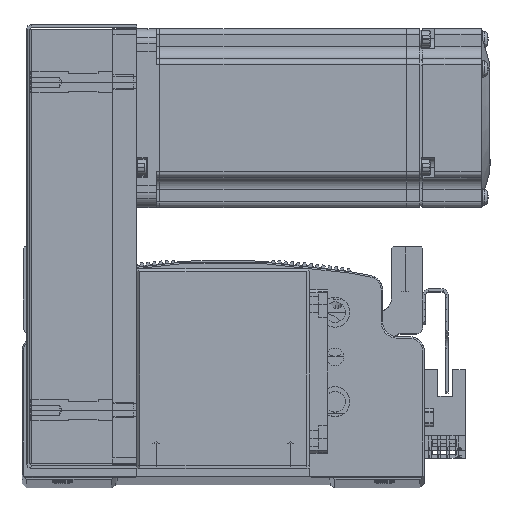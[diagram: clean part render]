
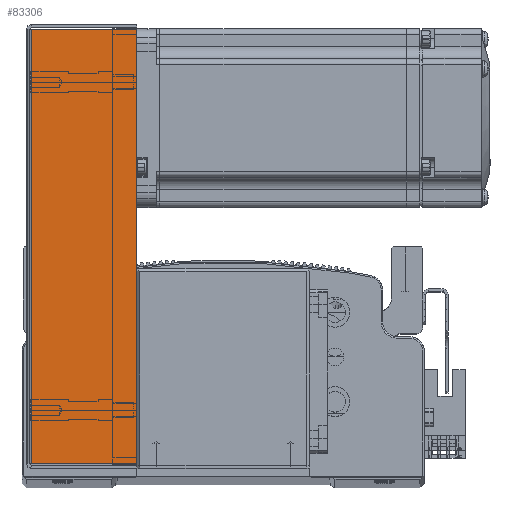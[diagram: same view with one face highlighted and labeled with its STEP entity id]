
A CAD part, top view. The second image highlights one B-rep face of the part: STEP entity #83306.
In plain terms, the highlighted planar face has unit normal (0, 0, 1).
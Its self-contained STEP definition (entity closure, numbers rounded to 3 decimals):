
#10316 = CARTESIAN_POINT ( 'NONE',  ( -72.793, 36., 34.5 ) ) ;
#10346 = CARTESIAN_POINT ( 'NONE',  ( 72.793, 0.737, 34.5 ) ) ;
#10350 = CARTESIAN_POINT ( 'NONE',  ( -72.793, 0.737, 34.5 ) ) ;
#10365 = CARTESIAN_POINT ( 'NONE',  ( 72.793, 36., 34.5 ) ) ;
#15097 = EDGE_LOOP ( 'NONE', ( #46840, #46782, #46742, #46737 ) ) ;
#36717 = EDGE_CURVE ( 'NONE', #60313, #60190, #39610, .T. ) ;
#36723 = EDGE_CURVE ( 'NONE', #60166, #60169, #39571, .T. ) ;
#36747 = EDGE_CURVE ( 'NONE', #60166, #60313, #39607, .T. ) ;
#36804 = EDGE_CURVE ( 'NONE', #60169, #60190, #39706, .T. ) ;
#39571 = LINE ( 'NONE', #41066, #39596 ) ;
#39585 = VECTOR ( 'NONE', #41098, 1000. ) ;
#39589 = VECTOR ( 'NONE', #41245, 1000. ) ;
#39596 = VECTOR ( 'NONE', #41090, 1000. ) ;
#39607 = LINE ( 'NONE', #41309, #39589 ) ;
#39610 = LINE ( 'NONE', #41102, #39585 ) ;
#39706 = LINE ( 'NONE', #41629, #39711 ) ;
#39711 = VECTOR ( 'NONE', #41596, 1000. ) ;
#41066 = CARTESIAN_POINT ( 'NONE',  ( -74.5, 0.737, 34.5 ) ) ;
#41090 = DIRECTION ( 'NONE',  ( -1., 0., 0. ) ) ;
#41098 = DIRECTION ( 'NONE',  ( -1., 0., 0. ) ) ;
#41102 = CARTESIAN_POINT ( 'NONE',  ( 0., 36., 34.5 ) ) ;
#41245 = DIRECTION ( 'NONE',  ( 0., 1., 0. ) ) ;
#41309 = CARTESIAN_POINT ( 'NONE',  ( 72.793, 0., 34.5 ) ) ;
#41596 = DIRECTION ( 'NONE',  ( 0., 1., 0. ) ) ;
#41629 = CARTESIAN_POINT ( 'NONE',  ( -72.793, 0., 34.5 ) ) ;
#46737 = ORIENTED_EDGE ( 'NONE', *, *, #36804, .F. ) ;
#46742 = ORIENTED_EDGE ( 'NONE', *, *, #36717, .T. ) ;
#46782 = ORIENTED_EDGE ( 'NONE', *, *, #36747, .T. ) ;
#46840 = ORIENTED_EDGE ( 'NONE', *, *, #36723, .F. ) ;
#60166 = VERTEX_POINT ( 'NONE', #10346 ) ;
#60169 = VERTEX_POINT ( 'NONE', #10350 ) ;
#60190 = VERTEX_POINT ( 'NONE', #10316 ) ;
#60313 = VERTEX_POINT ( 'NONE', #10365 ) ;
#64312 = FACE_OUTER_BOUND ( 'NONE', #15097, .T. ) ;
#65362 = DIRECTION ( 'NONE',  ( -1., 0., 0. ) ) ;
#65393 = CARTESIAN_POINT ( 'NONE',  ( 0., 0., 34.5 ) ) ;
#65395 = PLANE ( 'NONE',  #68215 ) ;
#65403 = DIRECTION ( 'NONE',  ( 0., 0., -1. ) ) ;
#68215 = AXIS2_PLACEMENT_3D ( 'NONE', #65393, #65403, #65362 ) ;
#83306 = ADVANCED_FACE ( 'NONE', ( #64312 ), #65395, .F. ) ;
